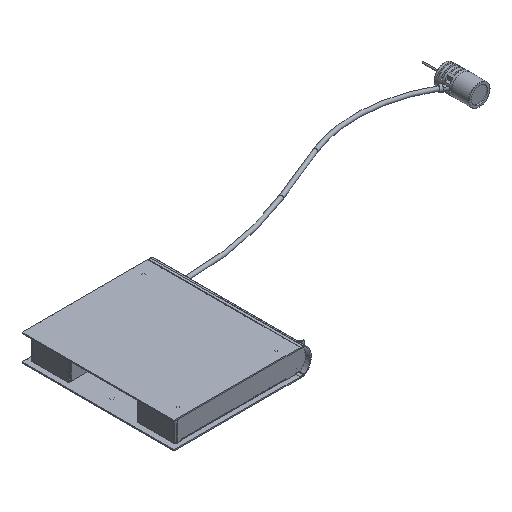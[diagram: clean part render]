
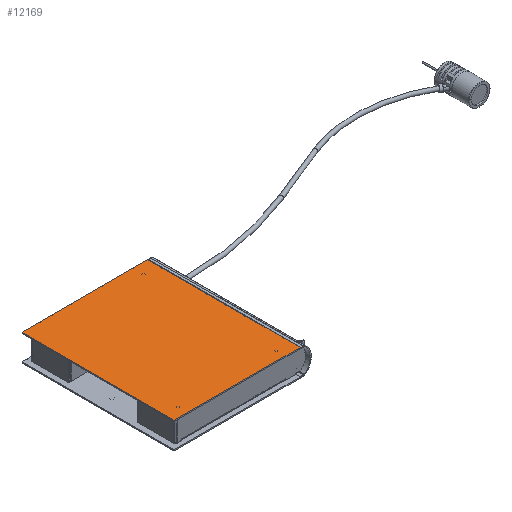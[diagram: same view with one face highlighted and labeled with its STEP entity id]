
A CAD part, isometric view. The second image highlights one B-rep face of the part: STEP entity #12169.
In plain terms, the highlighted planar face has unit normal (0, 0, 1).
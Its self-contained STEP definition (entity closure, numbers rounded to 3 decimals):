
#246 = CARTESIAN_POINT ( 'NONE',  ( -90.15, 200., 17.5 ) ) ;
#252 = CIRCLE ( 'NONE', #29635, 0.5 ) ;
#2512 = CARTESIAN_POINT ( 'NONE',  ( -89.65, 0., 17.5 ) ) ;
#2539 = CARTESIAN_POINT ( 'NONE',  ( -90.15, 0.5, 17.5 ) ) ;
#4432 = DIRECTION ( 'NONE',  ( -1., 0., 0. ) ) ;
#7267 = VERTEX_POINT ( 'NONE', #2512 ) ;
#7677 = EDGE_CURVE ( 'NONE', #7267, #20327, #37912, .T. ) ;
#7741 = ORIENTED_EDGE ( 'NONE', *, *, #42723, .T. ) ;
#7852 = CARTESIAN_POINT ( 'NONE',  ( -90.15, 199.5, 17.5 ) ) ;
#8246 = ORIENTED_EDGE ( 'NONE', *, *, #18621, .T. ) ;
#9937 = LINE ( 'NONE', #40510, #21421 ) ;
#10002 = LINE ( 'NONE', #33383, #11747 ) ;
#10493 = ORIENTED_EDGE ( 'NONE', *, *, #7677, .T. ) ;
#10920 = AXIS2_PLACEMENT_3D ( 'NONE', #37810, #20983, #13774 ) ;
#11747 = VECTOR ( 'NONE', #40570, 1000. ) ;
#12169 = ADVANCED_FACE ( 'NONE', ( #35172 ), #30912, .F. ) ;
#12800 = CARTESIAN_POINT ( 'NONE',  ( -89.65, 200., 17.5 ) ) ;
#13774 = DIRECTION ( 'NONE',  ( -1., 0., 0. ) ) ;
#17007 = DIRECTION ( 'NONE',  ( 1., 0., 0. ) ) ;
#18621 = EDGE_CURVE ( 'NONE', #34289, #38251, #41104, .T. ) ;
#19828 = CARTESIAN_POINT ( 'NONE',  ( -89.65, 0.5, 17.5 ) ) ;
#20327 = VERTEX_POINT ( 'NONE', #43947 ) ;
#20983 = DIRECTION ( 'NONE',  ( 0., 0., 1. ) ) ;
#21421 = VECTOR ( 'NONE', #33760, 1000. ) ;
#22344 = EDGE_CURVE ( 'NONE', #28961, #34289, #36742, .T. ) ;
#22773 = VECTOR ( 'NONE', #17007, 1000. ) ;
#23555 = DIRECTION ( 'NONE',  ( 0., -1., 0. ) ) ;
#24998 = ORIENTED_EDGE ( 'NONE', *, *, #22344, .T. ) ;
#26143 = DIRECTION ( 'NONE',  ( 0., 0., 1. ) ) ;
#26796 = DIRECTION ( 'NONE',  ( -1., 0., 0. ) ) ;
#27116 = CARTESIAN_POINT ( 'NONE',  ( 75.35, 0., 17.5 ) ) ;
#28214 = CARTESIAN_POINT ( 'NONE',  ( 75.35, 200., 17.5 ) ) ;
#28687 = VECTOR ( 'NONE', #23555, 1000. ) ;
#28961 = VERTEX_POINT ( 'NONE', #12800 ) ;
#29635 = AXIS2_PLACEMENT_3D ( 'NONE', #19828, #26143, #26796 ) ;
#30128 = AXIS2_PLACEMENT_3D ( 'NONE', #34948, #44395, #4432 ) ;
#30895 = ORIENTED_EDGE ( 'NONE', *, *, #31622, .F. ) ;
#30912 = PLANE ( 'NONE',  #30128 ) ;
#31622 = EDGE_CURVE ( 'NONE', #28961, #36751, #9937, .T. ) ;
#33383 = CARTESIAN_POINT ( 'NONE',  ( 75.35, 200., 17.5 ) ) ;
#33760 = DIRECTION ( 'NONE',  ( 1., 0., 0. ) ) ;
#34289 = VERTEX_POINT ( 'NONE', #7852 ) ;
#34948 = CARTESIAN_POINT ( 'NONE',  ( 75.35, 200., 17.5 ) ) ;
#35172 = FACE_OUTER_BOUND ( 'NONE', #43526, .T. ) ;
#35691 = ORIENTED_EDGE ( 'NONE', *, *, #43440, .F. ) ;
#36742 = CIRCLE ( 'NONE', #10920, 0.5 ) ;
#36751 = VERTEX_POINT ( 'NONE', #28214 ) ;
#37810 = CARTESIAN_POINT ( 'NONE',  ( -89.65, 199.5, 17.5 ) ) ;
#37912 = LINE ( 'NONE', #27116, #22773 ) ;
#38251 = VERTEX_POINT ( 'NONE', #2539 ) ;
#40510 = CARTESIAN_POINT ( 'NONE',  ( 75.35, 200., 17.5 ) ) ;
#40570 = DIRECTION ( 'NONE',  ( 0., -1., 0. ) ) ;
#41104 = LINE ( 'NONE', #246, #28687 ) ;
#42723 = EDGE_CURVE ( 'NONE', #38251, #7267, #252, .T. ) ;
#43440 = EDGE_CURVE ( 'NONE', #36751, #20327, #10002, .T. ) ;
#43526 = EDGE_LOOP ( 'NONE', ( #8246, #7741, #10493, #35691, #30895, #24998 ) ) ;
#43947 = CARTESIAN_POINT ( 'NONE',  ( 75.35, 0., 17.5 ) ) ;
#44395 = DIRECTION ( 'NONE',  ( 0., 0., -1. ) ) ;
